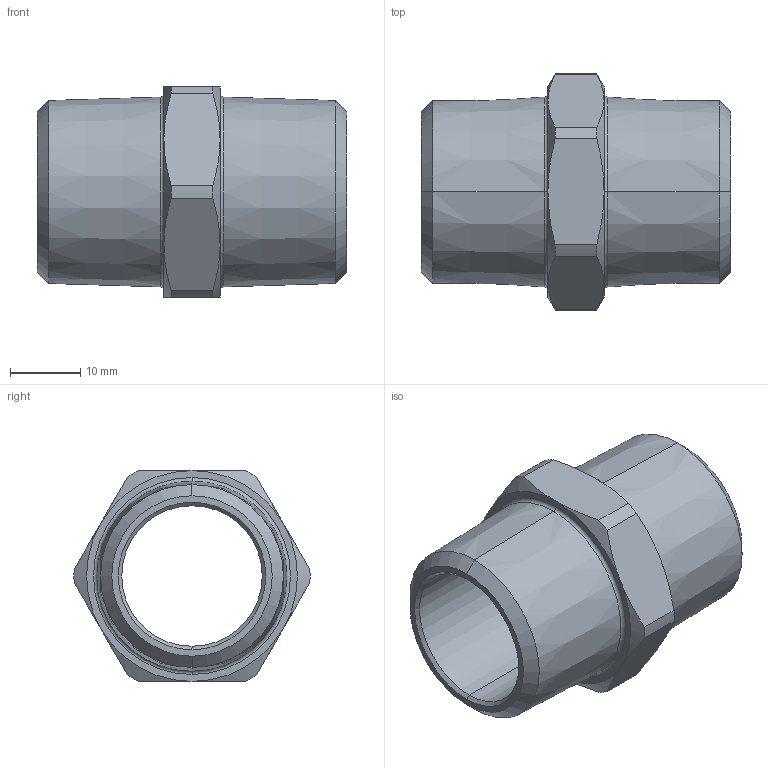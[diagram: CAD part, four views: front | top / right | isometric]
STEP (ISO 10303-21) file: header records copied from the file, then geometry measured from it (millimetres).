
FILE_DESCRIPTION (( 'STEP AP203' ), '1' );
FILE_NAME ('ﾍﾂﾍ2Nﾍ.STEP', '2019-06-05T12:27:04', ( '' ), ( '' ), 'SwSTEP 2.0', 'SolidWorks 2012', '' );
FILE_SCHEMA (( 'CONFIG_CONTROL_DESIGN' ));
Length unit declared in the file: millimetre
Products named in the file (1): ﾍﾂﾍ2Nﾍ
Bounding box: 44 x 33.59 x 30 mm (x, y, z)
Volume: 11577.3 mm3; surface area: 7363.3 mm2
Topology: 1 solids, 1 shells, 52 faces, 114 edges, 68 vertices
Faces by surface type: cone 24, cylinder 12, plane 12, torus 4
Entity records: 1611 total; most frequent: CARTESIAN_POINT 387, DIRECTION 256, ORIENTED_EDGE 228, EDGE_CURVE 114, AXIS2_PLACEMENT_3D 113, VERTEX_POINT 68, CIRCLE 60, EDGE_LOOP 58
